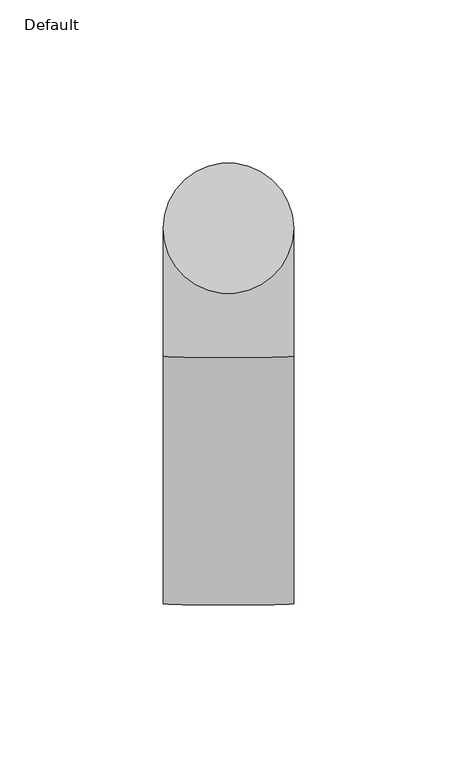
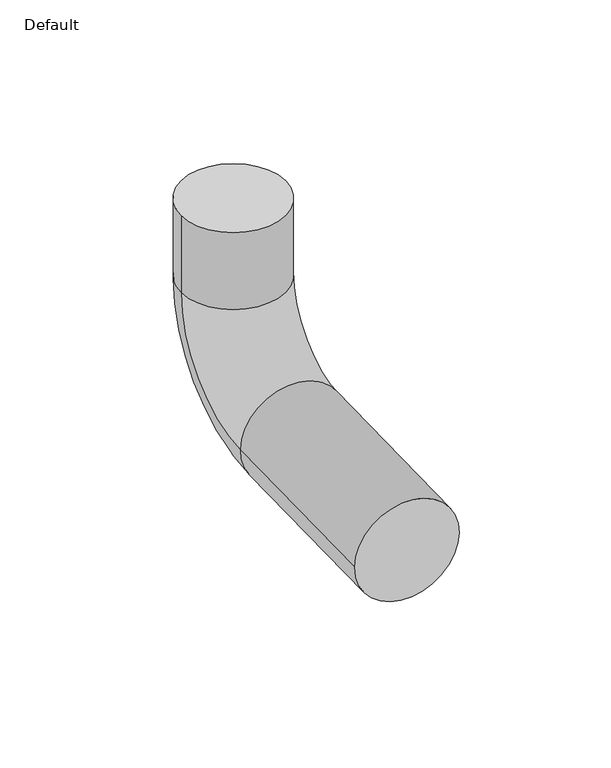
"""IFC4 building model written with IfcOpenShell, lengths in millimetres: flow terminal geometry, TSL_UK - TSLDRAIN - Trap - Straight - Nest : Default."""

from ifc_helpers import new_model, si_unit, point, frame, origin, place, context, project, spatial, circle_curve, ellipse_curve, trimmed, source, transform, mapped, element, save
from ifc_brep_helpers import plane_surface, cylinder_surface, revolved_surface, advanced_brep


def default_49a61917(model_context):
    return source(origin(), model_context, "Body", "AdvancedBrep", [
        advanced_brep(
        [(-20.0, -115.0323543, 519.8323299), (20.0, -115.0323543, 519.8323299), (-20.0, 0.0, 592.4895595), (20.0, 0.0, 592.4895595), (20.0, 0.0, 561.4041835), (-20.0, 0.0, 561.4041835), (20.0, -39.1668475, 521.4128613), (-20.0, -39.1668475, 521.4128613)],
        [
            (0, 1, circle_curve(frame((0.0, -115.0323543, 519.8323299), z_axis=(0.0, -0.9997830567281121, -0.020828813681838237), x_axis=(1.0, 0.0, 0.0)), 20.0)),
            (1, 0, circle_curve(frame((0.0, -115.0323543, 519.8323299), z_axis=(0.0, -0.9997830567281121, -0.020828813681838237), x_axis=(1.0, 0.0, 0.0)), 20.0)),
            (2, 3, circle_curve(frame((0.0, 0.0, 592.4895595), z_axis=(0.0, 0.0, 1.0), x_axis=(1.0, 0.0, 0.0)), 20.0)),
            (3, 2, circle_curve(frame((0.0, 0.0, 592.4895595), z_axis=(0.0, 0.0, 1.0), x_axis=(1.0, 0.0, 0.0)), 20.0)),
            (3, 4),
            (4, 5, circle_curve(frame((0.0, 0.0, 561.4041835), z_axis=(0.0, 0.0, 1.0), x_axis=(1.0, 0.0, 0.0)), 20.0)),
            (5, 2),
            (5, 4, circle_curve(frame((0.0, 0.0, 561.4041835), z_axis=(0.0, 0.0, 1.0), x_axis=(1.0, 0.0, 0.0)), 20.0)),
            (6, 7, circle_curve(frame((0.0, -39.1668475, 521.4128613), z_axis=(0.0, 0.999783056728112, 0.020828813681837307), x_axis=(1.0, 0.0, 0.0)), 20.0)),
            (7, 5, circle_curve(frame((-20.0, -40.0, 561.4041835), z_axis=(1.0, 0.0, 0.0), x_axis=(0.0, 1.0, 0.0)), 40.0)),
            (4, 6, circle_curve(frame((20.0, -40.0, 561.4041835), z_axis=(-1.0, 0.0, 0.0), x_axis=(0.0, 1.0, 0.0)), 40.0)),
            (7, 6, circle_curve(frame((0.0, -39.1668475, 521.4128613), z_axis=(0.0, 0.999783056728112, 0.02082881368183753), x_axis=(1.0, 0.0, 0.0)), 20.0)),
            (6, 1),
            (0, 7),
        ],
        [
            plane_surface(frame((0.0, -115.0323543, 519.8323299), z_axis=(0.0, -0.9997830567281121, -0.020828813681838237), x_axis=(1.0, 0.0, 0.0))),
            plane_surface(frame((0.0, 0.0, 592.4895595), z_axis=(0.0, 0.0, 1.0), x_axis=(1.0, 0.0, 0.0))),
            cylinder_surface(frame((0.0, 0.0, 592.4895595), z_axis=(0.0, 0.0, 1.0), x_axis=(1.0, 0.0, 0.0)), 20.0),
            revolved_surface(trimmed(ellipse_curve(frame((0.0, 0.0, 561.4041835), z_axis=(0.0, 0.0, -1.0), x_axis=(1.0, 0.0, 0.0)), 20.0, 20.0), [point((-20.0, 0.0, 561.4041835))], [point((20.0, 0.0, 561.4041835))], True, "CARTESIAN"), (0.0, -40.0, 561.4041835), (1.0, 0.0, 0.0)),
            revolved_surface(trimmed(ellipse_curve(frame((0.0, 0.0, 561.4041835), z_axis=(0.0, 0.0, -1.0), x_axis=(1.0, 0.0, 0.0)), 20.0, 20.0), [point((20.0, 0.0, 561.4041835))], [point((-20.0, 0.0, 561.4041835))], True, "CARTESIAN"), (0.0, -40.0, 561.4041835), (1.0, 0.0, 0.0)),
            cylinder_surface(frame((0.0, -39.1668475, 521.4128613), z_axis=(0.0, 0.9997830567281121, 0.020828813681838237), x_axis=(1.0, 0.0, 0.0)), 20.0),
        ],
        [
            (0, [[1, 2]]),
            (1, [[3, 4]]),
            (2, [[5, 6, 7, -4]]),
            (2, [[-7, 8, -5, -3]]),
            (3, [[9, 10, -6, 11]]),
            (4, [[12, -11, -8, -10]]),
            (5, [[13, -1, 14, -9]]),
            (5, [[-14, -2, -13, -12]]),
        ],
    ),
    ])


if __name__ == "__main__":
    model = new_model("IFC4")
    model_context = context("Model", 3, world=origin())
    ifc_project = project(units=[si_unit("LENGTHUNIT", "METRE", prefix="MILLI")], contexts=[model_context])
    site = spatial("IfcSite", under=ifc_project)
    building = spatial("IfcBuilding", under=site)
    placement = place(None, origin())
    default_shape = default_49a61917(model_context)
    element("IfcFlowTerminal", 1, ObjectType="TSL_UK - TSLDRAIN - Trap - Straight - Nest : Default", at=placement, inside=building, context=model_context, shape_type="MappedRepresentation", body=[
        mapped(default_shape, transform((0.0, 0.0, 0.0), x_axis=(1.0, 0.0, 0.0), y_axis=(0.0, 1.0, 0.0), z_axis=(0.0, 0.0, 1.0))),
    ])
    save(model, "model.ifc")
